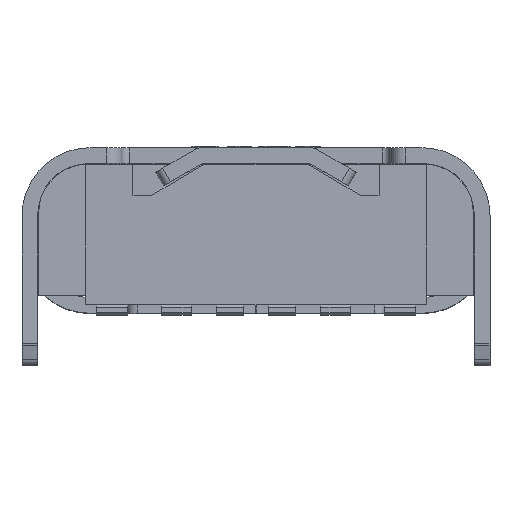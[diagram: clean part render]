
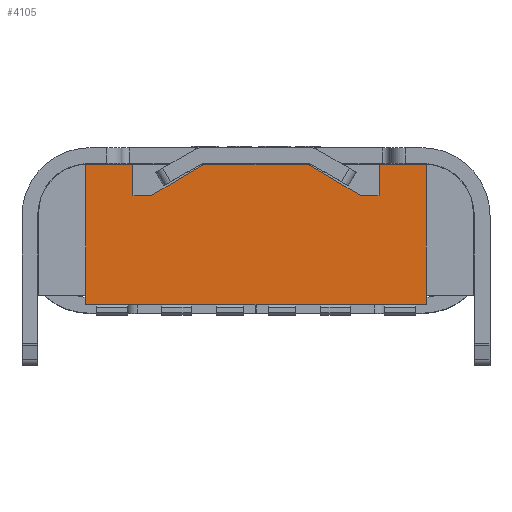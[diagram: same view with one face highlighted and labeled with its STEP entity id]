
A CAD part, top view. The second image highlights one B-rep face of the part: STEP entity #4105.
In plain terms, the highlighted planar face has unit normal (0, 0, 1) as drawn and (0, 0, -1) by its records, which use the part's own axes.
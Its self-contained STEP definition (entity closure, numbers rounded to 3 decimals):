
#93 = DIRECTION ( 'NONE',  ( 0., 1., 0. ) ) ;
#522 = VERTEX_POINT ( 'NONE', #826 ) ;
#826 = CARTESIAN_POINT ( 'NONE',  ( 3.839, 1.667, 0.33 ) ) ;
#872 = VECTOR ( 'NONE', #19131, 1000. ) ;
#1051 = ORIENTED_EDGE ( 'NONE', *, *, #18322, .F. ) ;
#1101 = CARTESIAN_POINT ( 'NONE',  ( 2.939, 1.067, 0.33 ) ) ;
#1191 = CARTESIAN_POINT ( 'NONE',  ( -2.661, 1.067, 0.33 ) ) ;
#1364 = ORIENTED_EDGE ( 'NONE', *, *, #13589, .F. ) ;
#1442 = CARTESIAN_POINT ( 'NONE',  ( -1.761, 1.667, 0.33 ) ) ;
#1705 = CARTESIAN_POINT ( 'NONE',  ( -0.411, 1.667, 0.33 ) ) ;
#1916 = CARTESIAN_POINT ( 'NONE',  ( 3.839, 1.667, 0.33 ) ) ;
#2024 = VERTEX_POINT ( 'NONE', #22347 ) ;
#2359 = CARTESIAN_POINT ( 'NONE',  ( 3.839, 1.667, 0.33 ) ) ;
#2609 = DIRECTION ( 'NONE',  ( 0., 1., 0. ) ) ;
#2612 = LINE ( 'NONE', #15792, #872 ) ;
#2693 = CARTESIAN_POINT ( 'NONE',  ( 2.939, 1.667, 0.33 ) ) ;
#2787 = DIRECTION ( 'NONE',  ( 0., -1., 0. ) ) ;
#3395 = VERTEX_POINT ( 'NONE', #10648 ) ;
#3434 = LINE ( 'NONE', #1705, #16161 ) ;
#3445 = LINE ( 'NONE', #16502, #22196 ) ;
#3842 = CARTESIAN_POINT ( 'NONE',  ( -2.661, -1.013, 0.33 ) ) ;
#4030 = ORIENTED_EDGE ( 'NONE', *, *, #24342, .T. ) ;
#4105 = ADVANCED_FACE ( 'NONE', ( #15254 ), #4406, .F. ) ;
#4287 = LINE ( 'NONE', #6495, #6505 ) ;
#4290 = CARTESIAN_POINT ( 'NONE',  ( -1.761, 1.667, 0.33 ) ) ;
#4406 = PLANE ( 'NONE',  #21657 ) ;
#5025 = DIRECTION ( 'NONE',  ( -1., 0., 0. ) ) ;
#5116 = VECTOR ( 'NONE', #93, 1000. ) ;
#5395 = LINE ( 'NONE', #1916, #5116 ) ;
#5406 = ORIENTED_EDGE ( 'NONE', *, *, #19001, .F. ) ;
#5516 = DIRECTION ( 'NONE',  ( 0.86, -0.511, 0. ) ) ;
#5597 = DIRECTION ( 'NONE',  ( 1., 0., 0. ) ) ;
#5628 = VECTOR ( 'NONE', #5516, 1000. ) ;
#5675 = VERTEX_POINT ( 'NONE', #20253 ) ;
#5744 = CARTESIAN_POINT ( 'NONE',  ( -0.411, 1.667, 0.33 ) ) ;
#5877 = DIRECTION ( 'NONE',  ( 0., 0., 1. ) ) ;
#6219 = VERTEX_POINT ( 'NONE', #12846 ) ;
#6495 = CARTESIAN_POINT ( 'NONE',  ( -2.661, 1.667, 0.33 ) ) ;
#6505 = VECTOR ( 'NONE', #2787, 1000. ) ;
#6560 = LINE ( 'NONE', #15795, #21292 ) ;
#6720 = EDGE_CURVE ( 'NONE', #12240, #6219, #7609, .T. ) ;
#6914 = ORIENTED_EDGE ( 'NONE', *, *, #21287, .F. ) ;
#6929 = VERTEX_POINT ( 'NONE', #19663 ) ;
#7199 = CARTESIAN_POINT ( 'NONE',  ( -2.661, -0.833, 0.33 ) ) ;
#7200 = CARTESIAN_POINT ( 'NONE',  ( 3.839, 1.667, 0.33 ) ) ;
#7442 = VECTOR ( 'NONE', #5025, 1000. ) ;
#7609 = LINE ( 'NONE', #15128, #5628 ) ;
#7773 = LINE ( 'NONE', #2693, #15146 ) ;
#9511 = LINE ( 'NONE', #3842, #18149 ) ;
#9568 = EDGE_CURVE ( 'NONE', #5675, #19751, #3445, .T. ) ;
#10250 = EDGE_CURVE ( 'NONE', #12240, #10898, #10399, .T. ) ;
#10343 = VECTOR ( 'NONE', #5597, 1000. ) ;
#10399 = LINE ( 'NONE', #20254, #18264 ) ;
#10522 = DIRECTION ( 'NONE',  ( -1., 0., 0. ) ) ;
#10531 = ORIENTED_EDGE ( 'NONE', *, *, #6720, .T. ) ;
#10648 = CARTESIAN_POINT ( 'NONE',  ( 2.939, 1.667, 0.33 ) ) ;
#10898 = VERTEX_POINT ( 'NONE', #5744 ) ;
#11593 = ORIENTED_EDGE ( 'NONE', *, *, #15651, .F. ) ;
#12103 = LINE ( 'NONE', #2359, #20305 ) ;
#12240 = VERTEX_POINT ( 'NONE', #19414 ) ;
#12561 = DIRECTION ( 'NONE',  ( 0.86, 0.511, 0. ) ) ;
#12697 = DIRECTION ( 'NONE',  ( 0., -1., 0. ) ) ;
#12846 = CARTESIAN_POINT ( 'NONE',  ( 2.599, 1.067, 0.33 ) ) ;
#12959 = CARTESIAN_POINT ( 'NONE',  ( -1.761, 1.067, 0.33 ) ) ;
#13415 = EDGE_CURVE ( 'NONE', #522, #3395, #6560, .T. ) ;
#13589 = EDGE_CURVE ( 'NONE', #6929, #19399, #9511, .T. ) ;
#13650 = LINE ( 'NONE', #4290, #23609 ) ;
#14100 = ORIENTED_EDGE ( 'NONE', *, *, #13415, .F. ) ;
#14407 = ORIENTED_EDGE ( 'NONE', *, *, #22184, .T. ) ;
#14460 = EDGE_CURVE ( 'NONE', #22067, #6219, #18324, .T. ) ;
#14802 = VERTEX_POINT ( 'NONE', #12959 ) ;
#14836 = ORIENTED_EDGE ( 'NONE', *, *, #23561, .F. ) ;
#15128 = CARTESIAN_POINT ( 'NONE',  ( 1.589, 1.667, 0.33 ) ) ;
#15146 = VECTOR ( 'NONE', #21452, 1000. ) ;
#15254 = FACE_OUTER_BOUND ( 'NONE', #23004, .T. ) ;
#15638 = VERTEX_POINT ( 'NONE', #1442 ) ;
#15651 = EDGE_CURVE ( 'NONE', #2024, #522, #5395, .T. ) ;
#15678 = DIRECTION ( 'NONE',  ( -1., 0., 0. ) ) ;
#15792 = CARTESIAN_POINT ( 'NONE',  ( -2.661, 1.067, 0.33 ) ) ;
#15795 = CARTESIAN_POINT ( 'NONE',  ( -2.661, 1.667, 0.33 ) ) ;
#15887 = CARTESIAN_POINT ( 'NONE',  ( 3.839, -1.013, 0.33 ) ) ;
#15975 = DIRECTION ( 'NONE',  ( 0., 1., 0. ) ) ;
#16161 = VECTOR ( 'NONE', #12561, 1000. ) ;
#16502 = CARTESIAN_POINT ( 'NONE',  ( -2.661, 1.667, 0.33 ) ) ;
#16773 = DIRECTION ( 'NONE',  ( 1., 0., 0. ) ) ;
#18149 = VECTOR ( 'NONE', #16773, 1000. ) ;
#18264 = VECTOR ( 'NONE', #10522, 1000. ) ;
#18322 = EDGE_CURVE ( 'NONE', #19751, #6929, #4287, .T. ) ;
#18324 = LINE ( 'NONE', #1191, #7442 ) ;
#19001 = EDGE_CURVE ( 'NONE', #19399, #2024, #12103, .T. ) ;
#19016 = CARTESIAN_POINT ( 'NONE',  ( -1.421, 1.067, 0.33 ) ) ;
#19131 = DIRECTION ( 'NONE',  ( -1., 0., 0. ) ) ;
#19399 = VERTEX_POINT ( 'NONE', #15887 ) ;
#19414 = CARTESIAN_POINT ( 'NONE',  ( 1.589, 1.667, 0.33 ) ) ;
#19663 = CARTESIAN_POINT ( 'NONE',  ( -2.661, -1.013, 0.33 ) ) ;
#19701 = ORIENTED_EDGE ( 'NONE', *, *, #10250, .F. ) ;
#19751 = VERTEX_POINT ( 'NONE', #7199 ) ;
#20190 = EDGE_CURVE ( 'NONE', #23061, #14802, #2612, .T. ) ;
#20253 = CARTESIAN_POINT ( 'NONE',  ( -2.661, 1.667, 0.33 ) ) ;
#20254 = CARTESIAN_POINT ( 'NONE',  ( -2.661, 1.667, 0.33 ) ) ;
#20305 = VECTOR ( 'NONE', #2609, 1000. ) ;
#21170 = DIRECTION ( 'NONE',  ( 1., 0., 0. ) ) ;
#21287 = EDGE_CURVE ( 'NONE', #14802, #15638, #13650, .T. ) ;
#21292 = VECTOR ( 'NONE', #15678, 1000. ) ;
#21452 = DIRECTION ( 'NONE',  ( 0., -1., 0. ) ) ;
#21617 = ORIENTED_EDGE ( 'NONE', *, *, #9568, .F. ) ;
#21657 = AXIS2_PLACEMENT_3D ( 'NONE', #22768, #5877, #21170 ) ;
#22067 = VERTEX_POINT ( 'NONE', #1101 ) ;
#22184 = EDGE_CURVE ( 'NONE', #23061, #10898, #3434, .T. ) ;
#22196 = VECTOR ( 'NONE', #12697, 1000. ) ;
#22224 = ORIENTED_EDGE ( 'NONE', *, *, #20190, .F. ) ;
#22347 = CARTESIAN_POINT ( 'NONE',  ( 3.839, -0.833, 0.33 ) ) ;
#22768 = CARTESIAN_POINT ( 'NONE',  ( -2.661, 1.667, 0.33 ) ) ;
#23004 = EDGE_LOOP ( 'NONE', ( #19701, #10531, #23885, #14836, #14100, #11593, #5406, #1364, #1051, #21617, #4030, #6914, #22224, #14407 ) ) ;
#23061 = VERTEX_POINT ( 'NONE', #19016 ) ;
#23561 = EDGE_CURVE ( 'NONE', #3395, #22067, #7773, .T. ) ;
#23609 = VECTOR ( 'NONE', #15975, 1000. ) ;
#23885 = ORIENTED_EDGE ( 'NONE', *, *, #14460, .F. ) ;
#24083 = LINE ( 'NONE', #7200, #10343 ) ;
#24342 = EDGE_CURVE ( 'NONE', #5675, #15638, #24083, .T. ) ;
